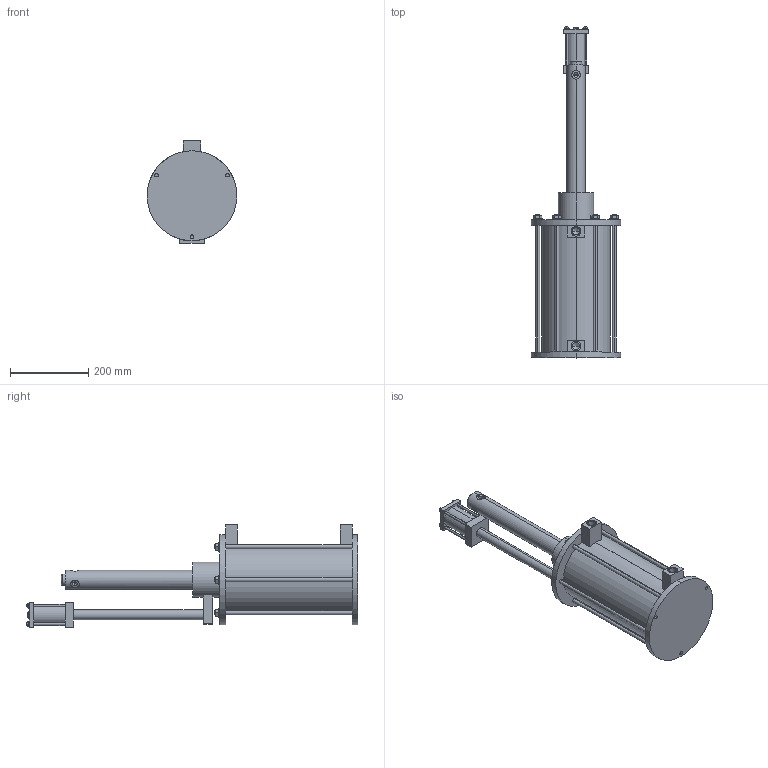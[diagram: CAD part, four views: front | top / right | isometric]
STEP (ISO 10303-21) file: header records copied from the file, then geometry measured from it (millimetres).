
FILE_DESCRIPTION (( 'STEP AP203' ), '1' );
FILE_NAME ('6110-215.STEP', '2016-01-29T10:37:16', ( '' ), ( '' ), 'SwSTEP 2.0', 'SolidWorks 2015', '' );
FILE_SCHEMA (( 'CONFIG_CONTROL_DESIGN' ));
Length unit declared in the file: millimetre
Products named in the file (1): 6110-215
Bounding box: 230 x 850 x 262 mm (x, y, z)
Volume: 3424700 mm3; surface area: 780502.4 mm2
Topology: 1 solids, 3 shells, 296 faces, 700 edges, 450 vertices
Faces by surface type: plane 160, cylinder 112, cone 22, torus 2
Entity records: 9159 total; most frequent: CARTESIAN_POINT 2091, DIRECTION 1490, ORIENTED_EDGE 1376, EDGE_CURVE 688, AXIS2_PLACEMENT_3D 539, VERTEX_POINT 450, VECTOR 412, LINE 412
